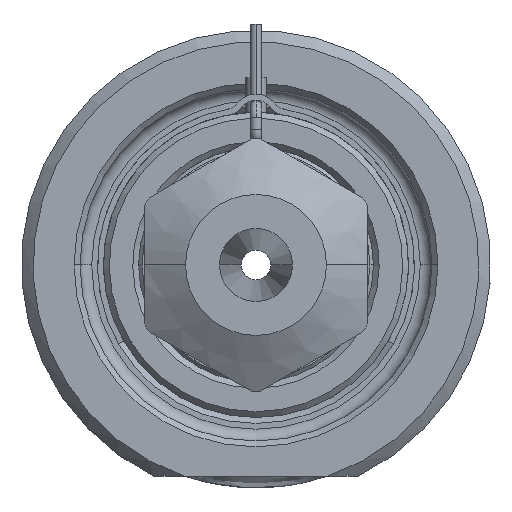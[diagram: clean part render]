
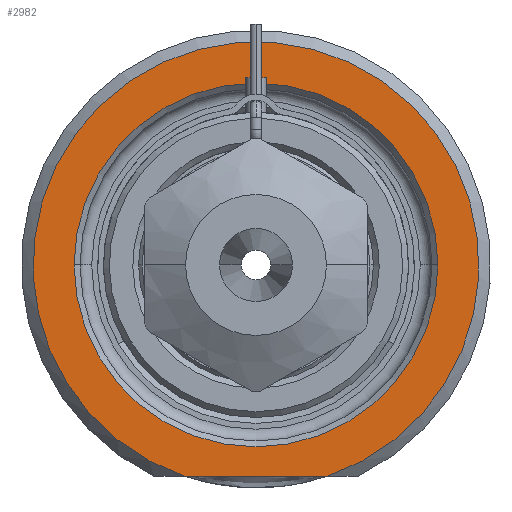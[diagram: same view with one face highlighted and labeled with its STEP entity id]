
A CAD part, front view. The second image highlights one B-rep face of the part: STEP entity #2982.
In plain terms, the highlighted planar face has unit normal (0, -1, 0).
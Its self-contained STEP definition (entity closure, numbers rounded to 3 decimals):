
#1=DIRECTION('',(1.,0.,0.));
#2=VECTOR('',#1,12.166);
#3=CARTESIAN_POINT('',(-6.083,0.,-18.));
#4=LINE('',#3,#2);
#5=CARTESIAN_POINT('',(0.,0.,0.));
#6=DIRECTION('',(0.,1.,0.));
#7=DIRECTION('',(-1.,0.,0.));
#8=AXIS2_PLACEMENT_3D('',#5,#6,#7);
#10=CARTESIAN_POINT('',(0.,0.,0.));
#11=DIRECTION('',(0.,1.,0.));
#12=DIRECTION('',(1.,0.,0.));
#13=AXIS2_PLACEMENT_3D('',#10,#11,#12);
#264=CARTESIAN_POINT('',(0.,0.,0.));
#265=DIRECTION('',(0.,-1.,0.));
#266=DIRECTION('',(0.32,0.,-0.947));
#267=AXIS2_PLACEMENT_3D('',#264,#265,#266);
#2514=CARTESIAN_POINT('',(-15.5,0.,0.));
#2515=CARTESIAN_POINT('',(15.5,0.,0.));
#2516=VERTEX_POINT('',#2514);
#2517=VERTEX_POINT('',#2515);
#2572=CARTESIAN_POINT('',(-6.083,0.,-18.));
#2573=CARTESIAN_POINT('',(6.083,0.,-18.));
#2574=VERTEX_POINT('',#2572);
#2575=VERTEX_POINT('',#2573);
#2965=CARTESIAN_POINT('',(0.,0.,0.));
#2966=DIRECTION('',(0.,-1.,0.));
#2967=DIRECTION('',(1.,0.,0.));
#2968=AXIS2_PLACEMENT_3D('',#2965,#2966,#2967);
#2969=PLANE('',#2968);
#2971=ORIENTED_EDGE('',*,*,#2970,.F.);
#2973=ORIENTED_EDGE('',*,*,#2972,.F.);
#2974=EDGE_LOOP('',(#2971,#2973));
#2975=FACE_OUTER_BOUND('',#2974,.F.);
#2977=ORIENTED_EDGE('',*,*,#2976,.F.);
#2979=ORIENTED_EDGE('',*,*,#2978,.F.);
#2980=EDGE_LOOP('',(#2977,#2979));
#2981=FACE_BOUND('',#2980,.F.);
#2982=ADVANCED_FACE('',(#2975,#2981),#2969,.T.);
#9=CIRCLE('',#8,15.5);
#14=CIRCLE('',#13,15.5);
#268=CIRCLE('',#267,19.);
#2970=EDGE_CURVE('',#2574,#2575,#4,.T.);
#2972=EDGE_CURVE('',#2575,#2574,#268,.T.);
#2976=EDGE_CURVE('',#2516,#2517,#9,.T.);
#2978=EDGE_CURVE('',#2517,#2516,#14,.T.);
